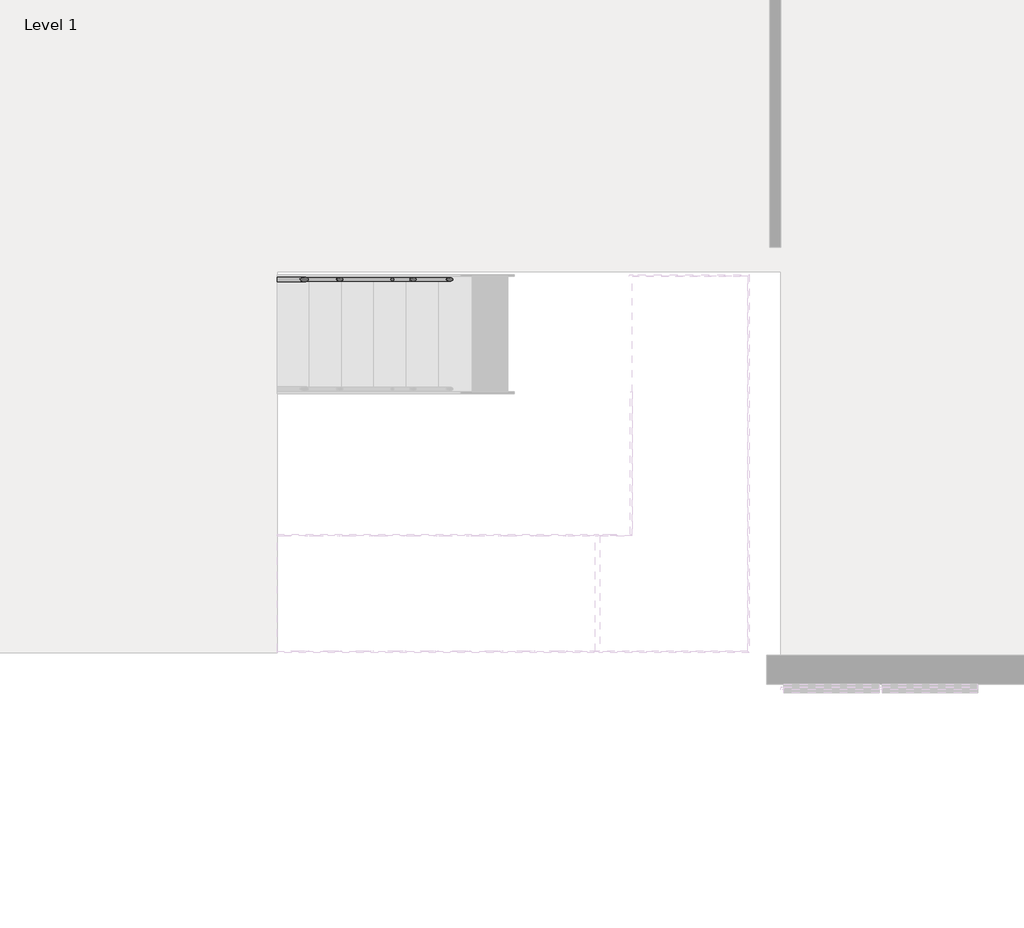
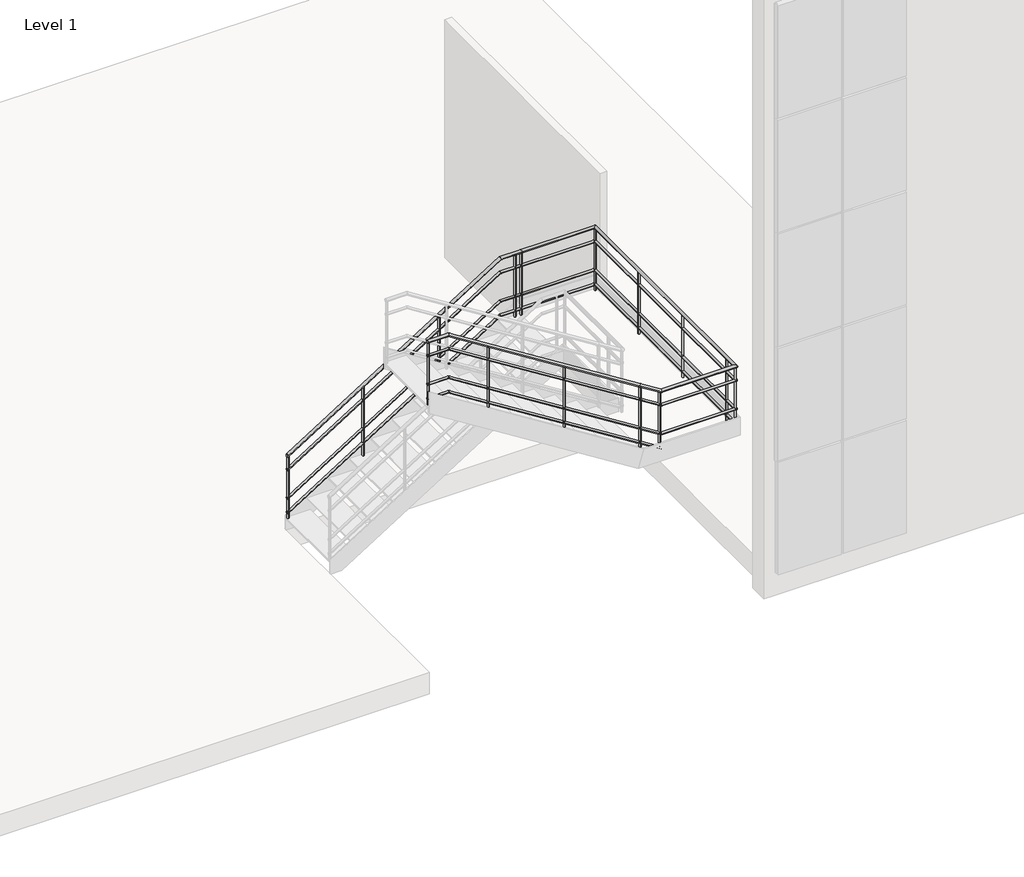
# One storey, part 9 of 10: 1 railing.
"""IFC4 building model written with IfcOpenShell, lengths in millimetres."""

from ifc_helpers import new_model, si_unit, point, frame, frame_2d, origin, place, context, project, spatial, circle_curve, ellipse_curve, trimmed, segment, composite_curve, outline, extrude, element, save
from ifc_brep_helpers import plane_surface, cylinder_surface, advanced_brep

model = new_model("IFC4")

# Units and contexts
model_context = context("Model", 3, world=origin())
ifc_project = project(units=[si_unit("LENGTHUNIT", "METRE", prefix="MILLI")], contexts=[model_context])

# Site, building, storey
site = spatial("IfcSite", under=ifc_project)
building = spatial("IfcBuilding", under=site)
storey = spatial("IfcBuildingStorey", under=building, Name="Level 1", Elevation=3750.0)

# Railing
placement = place(None, origin())
element("IfcRailing", 1, ObjectType="900mm_Pipe 2", at=placement, inside=storey, context=model_context, shape_type="SolidModel", body=[
    advanced_brep(
    [(35285.7942367, -43.5974508, 4802.5603454), (35285.7942367, -3.5974508, 4802.5603454), (38091.5632013, -43.5974508, 6568.0952381), (38091.5632013, -3.5974508, 6568.0952381), (38365.7942367, -43.5974508, 6568.0952381), (38365.7942367, -3.5974508, 6568.0952381), (39320.3942367, -43.5974508, 6568.0952381), (39360.3942367, -3.5974508, 6568.0952381), (39320.3942367, -3201.9476462, 6568.0952381), (39360.3942367, -3241.9476462, 6568.0952381), (38360.0252721, -3201.9476462, 6568.0952381), (38360.0252721, -3241.9476462, 6568.0952381), (38075.1425529, -3201.9476462, 6747.3581736), (38075.1425529, -3241.9476462, 6747.3581736), (35560.0252721, -3201.9476462, 8330.0), (35560.0252721, -3241.9476462, 8330.0), (35285.7942367, -3201.9476462, 8330.0), (35285.7942367, -3241.9476462, 8330.0)],
    [
        (0, 1, ellipse_curve(frame((35285.7942367, -23.5974508, 4802.5603454), z_axis=(-1.0, 0.0, 0.0), x_axis=(0.0, 0.0, -1.0)), 23.6301308, 20.0)),
        (1, 0, ellipse_curve(frame((35285.7942367, -23.5974508, 4802.5603454), z_axis=(-1.0, 0.0, 0.0), x_axis=(0.0, 0.0, -1.0)), 23.6301308, 20.0)),
        (0, 2),
        (2, 3, ellipse_curve(frame((38091.5632013, -23.5974508, 6568.0952381), z_axis=(-0.9608269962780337, 0.0, -0.2771488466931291), x_axis=(0.2771488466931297, 0.0, -0.9608269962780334)), 20.8154018, 20.0)),
        (3, 1),
        (3, 2, ellipse_curve(frame((38091.5632013, -23.5974508, 6568.0952381), z_axis=(-0.9608269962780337, 0.0, -0.2771488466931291), x_axis=(0.2771488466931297, 0.0, -0.9608269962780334)), 20.8154018, 20.0)),
        (2, 4),
        (4, 5, circle_curve(frame((38365.7942367, -23.5974508, 6568.0952381), z_axis=(-1.0, 0.0, 0.0), x_axis=(0.0, 1.0, 0.0)), 20.0)),
        (5, 3),
        (5, 4, circle_curve(frame((38365.7942367, -23.5974508, 6568.0952381), z_axis=(-1.0, 0.0, 0.0), x_axis=(0.0, 1.0, 0.0)), 20.0)),
        (4, 6),
        (6, 7, ellipse_curve(frame((39340.3942367, -23.5974508, 6568.0952381), z_axis=(-0.7071067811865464, 0.7071067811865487, 0.0), x_axis=(-0.7071067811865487, -0.7071067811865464, 0.0)), 28.2842712, 20.0)),
        (7, 5),
        (7, 6, ellipse_curve(frame((39340.3942367, -23.5974508, 6568.0952381), z_axis=(-0.7071067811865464, 0.7071067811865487, 0.0), x_axis=(-0.7071067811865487, -0.7071067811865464, 0.0)), 28.2842712, 20.0)),
        (6, 8),
        (8, 9, ellipse_curve(frame((39340.3942367, -3221.9476462, 6568.0952381), z_axis=(0.7071067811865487, 0.7071067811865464, 0.0), x_axis=(-0.7071067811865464, 0.7071067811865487, 0.0)), 28.2842712, 20.0)),
        (9, 7),
        (9, 8, ellipse_curve(frame((39340.3942367, -3221.9476462, 6568.0952381), z_axis=(0.7071067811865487, 0.7071067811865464, 0.0), x_axis=(-0.7071067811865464, 0.7071067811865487, 0.0)), 28.2842712, 20.0)),
        (8, 10),
        (10, 11, ellipse_curve(frame((38360.0252721, -3221.9476462, 6568.0952381), z_axis=(0.9608269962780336, 0.0, -0.2771488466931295), x_axis=(0.27714884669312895, 0.0, 0.9608269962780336)), 20.8154018, 20.0)),
        (11, 9),
        (11, 10, ellipse_curve(frame((38360.0252721, -3221.9476462, 6568.0952381), z_axis=(0.9608269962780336, 0.0, -0.2771488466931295), x_axis=(0.27714884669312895, 0.0, 0.9608269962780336)), 20.8154018, 20.0)),
        (10, 12),
        (12, 13, circle_curve(frame((38075.1425529, -3221.9476462, 6747.3581736), z_axis=(0.8463770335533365, 0.0, -0.5325841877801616), x_axis=(0.0, -1.0, 0.0)), 20.0)),
        (13, 11),
        (13, 12, circle_curve(frame((38075.1425529, -3221.9476462, 6747.3581736), z_axis=(0.8463770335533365, 0.0, -0.5325841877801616), x_axis=(0.0, -1.0, 0.0)), 20.0)),
        (12, 14),
        (14, 15, ellipse_curve(frame((35560.0252721, -3221.9476462, 8330.0), z_axis=(0.9608269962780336, 0.0, -0.27714884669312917), x_axis=(-0.27714884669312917, 0.0, -0.9608269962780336)), 20.8154018, 20.0)),
        (15, 13),
        (15, 14, ellipse_curve(frame((35560.0252721, -3221.9476462, 8330.0), z_axis=(0.9608269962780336, 0.0, -0.27714884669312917), x_axis=(-0.27714884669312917, 0.0, -0.9608269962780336)), 20.8154018, 20.0)),
        (16, 17, circle_curve(frame((35285.7942367, -3221.9476462, 8330.0), z_axis=(-1.0, 0.0, 0.0), x_axis=(0.0, -1.0, 0.0)), 20.0)),
        (17, 16, circle_curve(frame((35285.7942367, -3221.9476462, 8330.0), z_axis=(-1.0, 0.0, 0.0), x_axis=(0.0, -1.0, 0.0)), 20.0)),
        (14, 16),
        (17, 15),
    ],
    [
        plane_surface(frame((35285.7942367, -23.5974508, 4826.1904762), z_axis=(-1.0, 0.0, 0.0), x_axis=(0.0, 1.0, 0.0))),
        cylinder_surface(frame((35296.4459204, -23.5974508, 4809.2629355), z_axis=(-0.8463770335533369, 0.0, -0.5325841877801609), x_axis=(0.0, 1.0, 0.0)), 20.0),
        cylinder_surface(frame((38085.7942367, -23.5974508, 6568.0952381), z_axis=(-1.0, 0.0, 0.0), x_axis=(0.0, 1.0, 0.0)), 20.0),
        cylinder_surface(frame((38365.7942367, -23.5974508, 6568.0952381), z_axis=(-1.0, 0.0, 0.0), x_axis=(0.0, 1.0, 0.0)), 20.0),
        cylinder_surface(frame((39340.3942367, -23.5974508, 6568.0952381), z_axis=(0.0, 1.0, 0.0), x_axis=(1.0, 0.0, 0.0)), 20.0),
        cylinder_surface(frame((39340.3942367, -3221.9476462, 6568.0952381), z_axis=(1.0, 0.0, 0.0), x_axis=(0.0, -1.0, 0.0)), 20.0),
        cylinder_surface(frame((38355.1425529, -3221.9476462, 6571.1676974), z_axis=(0.8463770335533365, 0.0, -0.5325841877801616), x_axis=(0.0, -1.0, 0.0)), 20.0),
        cylinder_surface(frame((38075.1425529, -3221.9476462, 6747.3581736), z_axis=(0.8463770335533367, 0.0, -0.5325841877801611), x_axis=(0.0, -1.0, 0.0)), 20.0),
        plane_surface(frame((35285.7942367, -3221.9476462, 8350.0), z_axis=(-1.0, 0.0, 0.0), x_axis=(0.0, -1.0, 0.0))),
        cylinder_surface(frame((35565.7942367, -3221.9476462, 8330.0), z_axis=(1.0, 0.0, 0.0), x_axis=(0.0, -1.0, 0.0)), 20.0),
    ],
    [
        (0, [[1, 2]]),
        (1, [[-1, 3, 4, 5]]),
        (1, [[-2, -5, 6, -3]]),
        (2, [[-4, 7, 8, 9]]),
        (2, [[-6, -9, 10, -7]]),
        (3, [[-8, 11, 12, 13]]),
        (3, [[-10, -13, 14, -11]]),
        (4, [[-12, 15, 16, 17]]),
        (4, [[-14, -17, 18, -15]]),
        (5, [[-16, 19, 20, 21]]),
        (5, [[-18, -21, 22, -19]]),
        (6, [[-20, 23, 24, 25]]),
        (6, [[-22, -25, 26, -23]]),
        (7, [[-24, 27, 28, 29]]),
        (7, [[-26, -29, 30, -27]]),
        (8, [[31, 32]]),
        (9, [[-28, 33, -32, 34]]),
        (9, [[-30, -34, -31, -33]]),
    ],
),
    advanced_brep(
    [(35285.7942367, -38.5974508, 4608.4678781), (35285.7942367, -8.5974508, 4608.4678781), (38090.1209601, -38.5974508, 6373.0952381), (38090.1209601, -8.5974508, 6373.0952381), (38365.7942367, -38.5974508, 6373.0952381), (38365.7942367, -8.5974508, 6373.0952381)],
    [
        (0, 1, ellipse_curve(frame((35285.7942367, -23.5974508, 4608.4678781), z_axis=(-1.0, 0.0, 0.0), x_axis=(0.0, 0.0, -1.0)), 17.7225981, 15.0)),
        (1, 0, ellipse_curve(frame((35285.7942367, -23.5974508, 4608.4678781), z_axis=(-1.0, 0.0, 0.0), x_axis=(0.0, 0.0, -1.0)), 17.7225981, 15.0)),
        (0, 2),
        (2, 3, ellipse_curve(frame((38090.1209601, -23.5974508, 6373.0952381), z_axis=(-0.9608269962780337, 0.0, -0.2771488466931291), x_axis=(0.2771488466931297, 0.0, -0.9608269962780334)), 15.6115514, 15.0)),
        (3, 1),
        (3, 2, ellipse_curve(frame((38090.1209601, -23.5974508, 6373.0952381), z_axis=(-0.9608269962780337, 0.0, -0.2771488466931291), x_axis=(0.2771488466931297, 0.0, -0.9608269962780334)), 15.6115514, 15.0)),
        (4, 5, circle_curve(frame((38365.7942367, -23.5974508, 6373.0952381), z_axis=(1.0, 0.0, 0.0), x_axis=(0.0, 1.0, 0.0)), 15.0)),
        (5, 4, circle_curve(frame((38365.7942367, -23.5974508, 6373.0952381), z_axis=(1.0, 0.0, 0.0), x_axis=(0.0, 1.0, 0.0)), 15.0)),
        (2, 4),
        (5, 3),
    ],
    [
        plane_surface(frame((35285.7942367, -23.5974508, 4626.1904762), z_axis=(-1.0, 0.0, 0.0), x_axis=(0.0, 1.0, 0.0))),
        cylinder_surface(frame((35293.7829995, -23.5974508, 4613.4948207), z_axis=(-0.8463770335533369, 0.0, -0.5325841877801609), x_axis=(0.0, 1.0, 0.0)), 15.0),
        plane_surface(frame((38365.7942367, -23.5974508, 6388.0952381), z_axis=(1.0, 0.0, 0.0), x_axis=(0.0, 1.0, 0.0))),
        cylinder_surface(frame((38085.7942367, -23.5974508, 6373.0952381), z_axis=(-1.0, 0.0, 0.0), x_axis=(0.0, 1.0, 0.0)), 15.0),
    ],
    [
        (0, [[1, 2]]),
        (1, [[-1, 3, 4, 5]]),
        (1, [[-2, -5, 6, -3]]),
        (2, [[7, 8]]),
        (3, [[-4, 9, -8, 10]]),
        (3, [[-6, -10, -7, -9]]),
    ],
),
    advanced_brep(
    [(38365.7942367, -38.5974508, 6373.0952381), (38365.7942367, -8.5974508, 6373.0952381), (39325.3942367, -38.5974508, 6373.0952381), (39325.3942367, -8.5974508, 6373.0952381)],
    [
        (0, 1, circle_curve(frame((38365.7942367, -23.5974508, 6373.0952381), z_axis=(-1.0, 0.0, 0.0), x_axis=(0.0, 1.0, 0.0)), 15.0)),
        (1, 0, circle_curve(frame((38365.7942367, -23.5974508, 6373.0952381), z_axis=(-1.0, 0.0, 0.0), x_axis=(0.0, 1.0, 0.0)), 15.0)),
        (2, 3, circle_curve(frame((39325.3942367, -23.5974508, 6373.0952381), z_axis=(1.0, 0.0, 0.0), x_axis=(0.0, 1.0, 0.0)), 15.0)),
        (3, 2, circle_curve(frame((39325.3942367, -23.5974508, 6373.0952381), z_axis=(1.0, 0.0, 0.0), x_axis=(0.0, 1.0, 0.0)), 15.0)),
        (0, 2),
        (3, 1),
    ],
    [
        plane_surface(frame((38365.7942367, -23.5974508, 6388.0952381), z_axis=(-1.0, 0.0, 0.0), x_axis=(0.0, 1.0, 0.0))),
        plane_surface(frame((39325.3942367, -23.5974508, 6388.0952381), z_axis=(1.0, 0.0, 0.0), x_axis=(0.0, 1.0, 0.0))),
        cylinder_surface(frame((38365.7942367, -23.5974508, 6373.0952381), z_axis=(-1.0, 0.0, 0.0), x_axis=(0.0, 1.0, 0.0)), 15.0),
    ],
    [
        (0, [[1, 2]]),
        (1, [[3, 4]]),
        (2, [[-1, 5, -4, 6]]),
        (2, [[-2, -6, -3, -5]]),
    ],
),
    advanced_brep(
    [(39325.3942367, -8.5974508, 6373.0952381), (39355.3942367, -8.5974508, 6373.0952381), (39325.3942367, -3206.9476462, 6373.0952381), (39355.3942367, -3206.9476462, 6373.0952381)],
    [
        (0, 1, circle_curve(frame((39340.3942367, -8.5974508, 6373.0952381), z_axis=(0.0, 1.0, 0.0), x_axis=(1.0, 0.0, 0.0)), 15.0)),
        (1, 0, circle_curve(frame((39340.3942367, -8.5974508, 6373.0952381), z_axis=(0.0, 1.0, 0.0), x_axis=(1.0, 0.0, 0.0)), 15.0)),
        (2, 3, circle_curve(frame((39340.3942367, -3206.9476462, 6373.0952381), z_axis=(0.0, -1.0, 0.0), x_axis=(1.0, 0.0, 0.0)), 15.0)),
        (3, 2, circle_curve(frame((39340.3942367, -3206.9476462, 6373.0952381), z_axis=(0.0, -1.0, 0.0), x_axis=(1.0, 0.0, 0.0)), 15.0)),
        (0, 2),
        (3, 1),
    ],
    [
        plane_surface(frame((39340.3942367, -8.5974508, 6388.0952381), z_axis=(0.0, 1.0, 0.0), x_axis=(0.0, 0.0, -1.0))),
        plane_surface(frame((39340.3942367, -3206.9476462, 6388.0952381), z_axis=(0.0, -1.0, 0.0), x_axis=(0.0, 0.0, -1.0))),
        cylinder_surface(frame((39340.3942367, -8.5974508, 6373.0952381), z_axis=(0.0, 1.0, 0.0), x_axis=(1.0, 0.0, 0.0)), 15.0),
    ],
    [
        (0, [[1, 2]]),
        (1, [[3, 4]]),
        (2, [[-1, 5, -4, 6]]),
        (2, [[-2, -6, -3, -5]]),
    ],
),
    advanced_brep(
    [(39355.3942367, -3206.9476462, 6373.0952381), (39355.3942367, -3236.9476462, 6373.0952381), (38361.4675132, -3206.9476462, 6373.0952381), (38361.4675132, -3236.9476462, 6373.0952381), (38085.7942367, -3206.9476462, 6546.5631162), (38085.7942367, -3236.9476462, 6546.5631162)],
    [
        (0, 1, circle_curve(frame((39355.3942367, -3221.9476462, 6373.0952381), z_axis=(1.0, 0.0, 0.0), x_axis=(0.0, -1.0, 0.0)), 15.0)),
        (1, 0, circle_curve(frame((39355.3942367, -3221.9476462, 6373.0952381), z_axis=(1.0, 0.0, 0.0), x_axis=(0.0, -1.0, 0.0)), 15.0)),
        (0, 2),
        (2, 3, ellipse_curve(frame((38361.4675132, -3221.9476462, 6373.0952381), z_axis=(0.9608269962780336, 0.0, -0.2771488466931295), x_axis=(0.27714884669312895, 0.0, 0.9608269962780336)), 15.6115514, 15.0)),
        (3, 1),
        (3, 2, ellipse_curve(frame((38361.4675132, -3221.9476462, 6373.0952381), z_axis=(0.9608269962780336, 0.0, -0.2771488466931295), x_axis=(0.27714884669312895, 0.0, 0.9608269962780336)), 15.6115514, 15.0)),
        (4, 5, ellipse_curve(frame((38085.7942367, -3221.9476462, 6546.5631162), z_axis=(-1.0, 0.0, 0.0), x_axis=(0.0, 0.0, -1.0)), 17.7225981, 15.0)),
        (5, 4, ellipse_curve(frame((38085.7942367, -3221.9476462, 6546.5631162), z_axis=(-1.0, 0.0, 0.0), x_axis=(0.0, 0.0, -1.0)), 17.7225981, 15.0)),
        (2, 4),
        (5, 3),
    ],
    [
        plane_surface(frame((39355.3942367, -3221.9476462, 6388.0952381), z_axis=(1.0, 0.0, 0.0), x_axis=(0.0, -1.0, 0.0))),
        cylinder_surface(frame((39355.3942367, -3221.9476462, 6373.0952381), z_axis=(1.0, 0.0, 0.0), x_axis=(0.0, -1.0, 0.0)), 15.0),
        plane_surface(frame((38085.7942367, -3221.9476462, 6564.2857143), z_axis=(-1.0, 0.0, 0.0), x_axis=(0.0, -1.0, 0.0))),
        cylinder_surface(frame((38357.8054739, -3221.9476462, 6375.3995826), z_axis=(0.8463770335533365, 0.0, -0.5325841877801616), x_axis=(0.0, -1.0, 0.0)), 15.0),
    ],
    [
        (0, [[1, 2]]),
        (1, [[-1, 3, 4, 5]]),
        (1, [[-2, -5, 6, -3]]),
        (2, [[7, 8]]),
        (3, [[-4, 9, -8, 10]]),
        (3, [[-6, -10, -7, -9]]),
    ],
),
    advanced_brep(
    [(38085.7942367, -3206.9476462, 6546.5631162), (38085.7942367, -3236.9476462, 6546.5631162), (35561.4675132, -3206.9476462, 8135.0), (35561.4675132, -3236.9476462, 8135.0), (35285.7942367, -3206.9476462, 8135.0), (35285.7942367, -3236.9476462, 8135.0)],
    [
        (0, 1, ellipse_curve(frame((38085.7942367, -3221.9476462, 6546.5631162), z_axis=(1.0, 0.0, 0.0), x_axis=(0.0, 0.0, -1.0)), 17.7225981, 15.0)),
        (1, 0, ellipse_curve(frame((38085.7942367, -3221.9476462, 6546.5631162), z_axis=(1.0, 0.0, 0.0), x_axis=(0.0, 0.0, -1.0)), 17.7225981, 15.0)),
        (0, 2),
        (2, 3, ellipse_curve(frame((35561.4675132, -3221.9476462, 8135.0), z_axis=(0.9608269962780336, 0.0, -0.27714884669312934), x_axis=(-0.2771488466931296, 0.0, -0.9608269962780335)), 15.6115514, 15.0)),
        (3, 1),
        (3, 2, ellipse_curve(frame((35561.4675132, -3221.9476462, 8135.0), z_axis=(0.9608269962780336, 0.0, -0.27714884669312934), x_axis=(-0.2771488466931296, 0.0, -0.9608269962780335)), 15.6115514, 15.0)),
        (4, 5, circle_curve(frame((35285.7942367, -3221.9476462, 8135.0), z_axis=(-1.0, 0.0, 0.0), x_axis=(0.0, -1.0, 0.0)), 15.0)),
        (5, 4, circle_curve(frame((35285.7942367, -3221.9476462, 8135.0), z_axis=(-1.0, 0.0, 0.0), x_axis=(0.0, -1.0, 0.0)), 15.0)),
        (2, 4),
        (5, 3),
    ],
    [
        plane_surface(frame((38085.7942367, -3221.9476462, 6564.2857143), z_axis=(1.0, 0.0, 0.0), x_axis=(0.0, -1.0, 0.0))),
        cylinder_surface(frame((38077.8054739, -3221.9476462, 6551.5900588), z_axis=(0.8463770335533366, 0.0, -0.5325841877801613), x_axis=(0.0, -1.0, 0.0)), 15.0),
        plane_surface(frame((35285.7942367, -3221.9476462, 8150.0), z_axis=(-1.0, 0.0, 0.0), x_axis=(0.0, -1.0, 0.0))),
        cylinder_surface(frame((35565.7942367, -3221.9476462, 8135.0), z_axis=(1.0, 0.0, 0.0), x_axis=(0.0, -1.0, 0.0)), 15.0),
    ],
    [
        (0, [[1, 2]]),
        (1, [[-1, 3, 4, 5]]),
        (1, [[-2, -5, 6, -3]]),
        (2, [[7, 8]]),
        (3, [[-4, 9, -8, 10]]),
        (3, [[-6, -10, -7, -9]]),
    ],
),
    advanced_brep(
    [(35285.7942367, -38.5974508, 4208.4678781), (35285.7942367, -8.5974508, 4208.4678781), (38090.1209601, -38.5974508, 5973.0952381), (38090.1209601, -8.5974508, 5973.0952381), (38365.7942367, -38.5974508, 5973.0952381), (38365.7942367, -8.5974508, 5973.0952381)],
    [
        (0, 1, ellipse_curve(frame((35285.7942367, -23.5974508, 4208.4678781), z_axis=(-1.0, 0.0, 0.0), x_axis=(0.0, 0.0, -1.0)), 17.7225981, 15.0)),
        (1, 0, ellipse_curve(frame((35285.7942367, -23.5974508, 4208.4678781), z_axis=(-1.0, 0.0, 0.0), x_axis=(0.0, 0.0, -1.0)), 17.7225981, 15.0)),
        (0, 2),
        (2, 3, ellipse_curve(frame((38090.1209601, -23.5974508, 5973.0952381), z_axis=(-0.9608269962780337, 0.0, -0.2771488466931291), x_axis=(0.2771488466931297, 0.0, -0.9608269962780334)), 15.6115514, 15.0)),
        (3, 1),
        (3, 2, ellipse_curve(frame((38090.1209601, -23.5974508, 5973.0952381), z_axis=(-0.9608269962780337, 0.0, -0.2771488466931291), x_axis=(0.2771488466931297, 0.0, -0.9608269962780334)), 15.6115514, 15.0)),
        (4, 5, circle_curve(frame((38365.7942367, -23.5974508, 5973.0952381), z_axis=(1.0, 0.0, 0.0), x_axis=(0.0, 1.0, 0.0)), 15.0)),
        (5, 4, circle_curve(frame((38365.7942367, -23.5974508, 5973.0952381), z_axis=(1.0, 0.0, 0.0), x_axis=(0.0, 1.0, 0.0)), 15.0)),
        (2, 4),
        (5, 3),
    ],
    [
        plane_surface(frame((35285.7942367, -23.5974508, 4226.1904762), z_axis=(-1.0, 0.0, 0.0), x_axis=(0.0, 1.0, 0.0))),
        cylinder_surface(frame((35293.7829995, -23.5974508, 4213.4948207), z_axis=(-0.8463770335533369, 0.0, -0.5325841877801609), x_axis=(0.0, 1.0, 0.0)), 15.0),
        plane_surface(frame((38365.7942367, -23.5974508, 5988.0952381), z_axis=(1.0, 0.0, 0.0), x_axis=(0.0, 1.0, 0.0))),
        cylinder_surface(frame((38085.7942367, -23.5974508, 5973.0952381), z_axis=(-1.0, 0.0, 0.0), x_axis=(0.0, 1.0, 0.0)), 15.0),
    ],
    [
        (0, [[1, 2]]),
        (1, [[-1, 3, 4, 5]]),
        (1, [[-2, -5, 6, -3]]),
        (2, [[7, 8]]),
        (3, [[-4, 9, -8, 10]]),
        (3, [[-6, -10, -7, -9]]),
    ],
),
    advanced_brep(
    [(38365.7942367, -38.5974508, 5973.0952381), (38365.7942367, -8.5974508, 5973.0952381), (39325.3942367, -38.5974508, 5973.0952381), (39325.3942367, -8.5974508, 5973.0952381)],
    [
        (0, 1, circle_curve(frame((38365.7942367, -23.5974508, 5973.0952381), z_axis=(-1.0, 0.0, 0.0), x_axis=(0.0, 1.0, 0.0)), 15.0)),
        (1, 0, circle_curve(frame((38365.7942367, -23.5974508, 5973.0952381), z_axis=(-1.0, 0.0, 0.0), x_axis=(0.0, 1.0, 0.0)), 15.0)),
        (2, 3, circle_curve(frame((39325.3942367, -23.5974508, 5973.0952381), z_axis=(1.0, 0.0, 0.0), x_axis=(0.0, 1.0, 0.0)), 15.0)),
        (3, 2, circle_curve(frame((39325.3942367, -23.5974508, 5973.0952381), z_axis=(1.0, 0.0, 0.0), x_axis=(0.0, 1.0, 0.0)), 15.0)),
        (0, 2),
        (3, 1),
    ],
    [
        plane_surface(frame((38365.7942367, -23.5974508, 5988.0952381), z_axis=(-1.0, 0.0, 0.0), x_axis=(0.0, 1.0, 0.0))),
        plane_surface(frame((39325.3942367, -23.5974508, 5988.0952381), z_axis=(1.0, 0.0, 0.0), x_axis=(0.0, 1.0, 0.0))),
        cylinder_surface(frame((38365.7942367, -23.5974508, 5973.0952381), z_axis=(-1.0, 0.0, 0.0), x_axis=(0.0, 1.0, 0.0)), 15.0),
    ],
    [
        (0, [[1, 2]]),
        (1, [[3, 4]]),
        (2, [[-1, 5, -4, 6]]),
        (2, [[-2, -6, -3, -5]]),
    ],
),
    advanced_brep(
    [(39325.3942367, -8.5974508, 5973.0952381), (39355.3942367, -8.5974508, 5973.0952381), (39325.3942367, -3206.9476462, 5973.0952381), (39355.3942367, -3206.9476462, 5973.0952381)],
    [
        (0, 1, circle_curve(frame((39340.3942367, -8.5974508, 5973.0952381), z_axis=(0.0, 1.0, 0.0), x_axis=(1.0, 0.0, 0.0)), 15.0)),
        (1, 0, circle_curve(frame((39340.3942367, -8.5974508, 5973.0952381), z_axis=(0.0, 1.0, 0.0), x_axis=(1.0, 0.0, 0.0)), 15.0)),
        (2, 3, circle_curve(frame((39340.3942367, -3206.9476462, 5973.0952381), z_axis=(0.0, -1.0, 0.0), x_axis=(1.0, 0.0, 0.0)), 15.0)),
        (3, 2, circle_curve(frame((39340.3942367, -3206.9476462, 5973.0952381), z_axis=(0.0, -1.0, 0.0), x_axis=(1.0, 0.0, 0.0)), 15.0)),
        (0, 2),
        (3, 1),
    ],
    [
        plane_surface(frame((39340.3942367, -8.5974508, 5988.0952381), z_axis=(0.0, 1.0, 0.0), x_axis=(0.0, 0.0, -1.0))),
        plane_surface(frame((39340.3942367, -3206.9476462, 5988.0952381), z_axis=(0.0, -1.0, 0.0), x_axis=(0.0, 0.0, -1.0))),
        cylinder_surface(frame((39340.3942367, -8.5974508, 5973.0952381), z_axis=(0.0, 1.0, 0.0), x_axis=(1.0, 0.0, 0.0)), 15.0),
    ],
    [
        (0, [[1, 2]]),
        (1, [[3, 4]]),
        (2, [[-1, 5, -4, 6]]),
        (2, [[-2, -6, -3, -5]]),
    ],
),
    advanced_brep(
    [(39355.3942367, -3206.9476462, 5973.0952381), (39355.3942367, -3236.9476462, 5973.0952381), (38361.4675132, -3206.9476462, 5973.0952381), (38361.4675132, -3236.9476462, 5973.0952381), (38085.7942367, -3206.9476462, 6146.5631162), (38085.7942367, -3236.9476462, 6146.5631162)],
    [
        (0, 1, circle_curve(frame((39355.3942367, -3221.9476462, 5973.0952381), z_axis=(1.0, 0.0, 0.0), x_axis=(0.0, -1.0, 0.0)), 15.0)),
        (1, 0, circle_curve(frame((39355.3942367, -3221.9476462, 5973.0952381), z_axis=(1.0, 0.0, 0.0), x_axis=(0.0, -1.0, 0.0)), 15.0)),
        (0, 2),
        (2, 3, ellipse_curve(frame((38361.4675132, -3221.9476462, 5973.0952381), z_axis=(0.9608269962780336, 0.0, -0.2771488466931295), x_axis=(0.27714884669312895, 0.0, 0.9608269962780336)), 15.6115514, 15.0)),
        (3, 1),
        (3, 2, ellipse_curve(frame((38361.4675132, -3221.9476462, 5973.0952381), z_axis=(0.9608269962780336, 0.0, -0.2771488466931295), x_axis=(0.27714884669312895, 0.0, 0.9608269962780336)), 15.6115514, 15.0)),
        (4, 5, ellipse_curve(frame((38085.7942367, -3221.9476462, 6146.5631162), z_axis=(-1.0, 0.0, 0.0), x_axis=(0.0, 0.0, -1.0)), 17.7225981, 15.0)),
        (5, 4, ellipse_curve(frame((38085.7942367, -3221.9476462, 6146.5631162), z_axis=(-1.0, 0.0, 0.0), x_axis=(0.0, 0.0, -1.0)), 17.7225981, 15.0)),
        (2, 4),
        (5, 3),
    ],
    [
        plane_surface(frame((39355.3942367, -3221.9476462, 5988.0952381), z_axis=(1.0, 0.0, 0.0), x_axis=(0.0, -1.0, 0.0))),
        cylinder_surface(frame((39355.3942367, -3221.9476462, 5973.0952381), z_axis=(1.0, 0.0, 0.0), x_axis=(0.0, -1.0, 0.0)), 15.0),
        plane_surface(frame((38085.7942367, -3221.9476462, 6164.2857143), z_axis=(-1.0, 0.0, 0.0), x_axis=(0.0, -1.0, 0.0))),
        cylinder_surface(frame((38357.8054739, -3221.9476462, 5975.3995826), z_axis=(0.8463770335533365, 0.0, -0.5325841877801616), x_axis=(0.0, -1.0, 0.0)), 15.0),
    ],
    [
        (0, [[1, 2]]),
        (1, [[-1, 3, 4, 5]]),
        (1, [[-2, -5, 6, -3]]),
        (2, [[7, 8]]),
        (3, [[-4, 9, -8, 10]]),
        (3, [[-6, -10, -7, -9]]),
    ],
),
    advanced_brep(
    [(38085.7942367, -3206.9476462, 6146.5631162), (38085.7942367, -3236.9476462, 6146.5631162), (35561.4675132, -3206.9476462, 7735.0), (35561.4675132, -3236.9476462, 7735.0), (35285.7942367, -3206.9476462, 7735.0), (35285.7942367, -3236.9476462, 7735.0)],
    [
        (0, 1, ellipse_curve(frame((38085.7942367, -3221.9476462, 6146.5631162), z_axis=(1.0, 0.0, 0.0), x_axis=(0.0, 0.0, -1.0)), 17.7225981, 15.0)),
        (1, 0, ellipse_curve(frame((38085.7942367, -3221.9476462, 6146.5631162), z_axis=(1.0, 0.0, 0.0), x_axis=(0.0, 0.0, -1.0)), 17.7225981, 15.0)),
        (0, 2),
        (2, 3, ellipse_curve(frame((35561.4675132, -3221.9476462, 7735.0), z_axis=(0.9608269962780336, 0.0, -0.27714884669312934), x_axis=(-0.2771488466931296, 0.0, -0.9608269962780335)), 15.6115514, 15.0)),
        (3, 1),
        (3, 2, ellipse_curve(frame((35561.4675132, -3221.9476462, 7735.0), z_axis=(0.9608269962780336, 0.0, -0.27714884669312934), x_axis=(-0.2771488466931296, 0.0, -0.9608269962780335)), 15.6115514, 15.0)),
        (4, 5, circle_curve(frame((35285.7942367, -3221.9476462, 7735.0), z_axis=(-1.0, 0.0, 0.0), x_axis=(0.0, -1.0, 0.0)), 15.0)),
        (5, 4, circle_curve(frame((35285.7942367, -3221.9476462, 7735.0), z_axis=(-1.0, 0.0, 0.0), x_axis=(0.0, -1.0, 0.0)), 15.0)),
        (2, 4),
        (5, 3),
    ],
    [
        plane_surface(frame((38085.7942367, -3221.9476462, 6164.2857143), z_axis=(1.0, 0.0, 0.0), x_axis=(0.0, -1.0, 0.0))),
        cylinder_surface(frame((38077.8054739, -3221.9476462, 6151.5900588), z_axis=(0.8463770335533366, 0.0, -0.5325841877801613), x_axis=(0.0, -1.0, 0.0)), 15.0),
        plane_surface(frame((35285.7942367, -3221.9476462, 7750.0), z_axis=(-1.0, 0.0, 0.0), x_axis=(0.0, -1.0, 0.0))),
        cylinder_surface(frame((35565.7942367, -3221.9476462, 7735.0), z_axis=(1.0, 0.0, 0.0), x_axis=(0.0, -1.0, 0.0)), 15.0),
    ],
    [
        (0, [[1, 2]]),
        (1, [[-1, 3, 4, 5]]),
        (1, [[-2, -5, 6, -3]]),
        (2, [[7, 8]]),
        (3, [[-4, 9, -8, 10]]),
        (3, [[-6, -10, -7, -9]]),
    ],
),
    advanced_brep(
    [(35285.7942367, -38.5974508, 4008.4678781), (35285.7942367, -8.5974508, 4008.4678781), (38090.1209601, -38.5974508, 5773.0952381), (38090.1209601, -8.5974508, 5773.0952381), (38365.7942367, -38.5974508, 5773.0952381), (38365.7942367, -8.5974508, 5773.0952381)],
    [
        (0, 1, ellipse_curve(frame((35285.7942367, -23.5974508, 4008.4678781), z_axis=(-1.0, 0.0, 0.0), x_axis=(0.0, 0.0, -1.0)), 17.7225981, 15.0)),
        (1, 0, ellipse_curve(frame((35285.7942367, -23.5974508, 4008.4678781), z_axis=(-1.0, 0.0, 0.0), x_axis=(0.0, 0.0, -1.0)), 17.7225981, 15.0)),
        (0, 2),
        (2, 3, ellipse_curve(frame((38090.1209601, -23.5974508, 5773.0952381), z_axis=(-0.9608269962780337, 0.0, -0.2771488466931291), x_axis=(0.2771488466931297, 0.0, -0.9608269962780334)), 15.6115514, 15.0)),
        (3, 1),
        (3, 2, ellipse_curve(frame((38090.1209601, -23.5974508, 5773.0952381), z_axis=(-0.9608269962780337, 0.0, -0.2771488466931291), x_axis=(0.2771488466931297, 0.0, -0.9608269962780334)), 15.6115514, 15.0)),
        (4, 5, circle_curve(frame((38365.7942367, -23.5974508, 5773.0952381), z_axis=(1.0, 0.0, 0.0), x_axis=(0.0, 1.0, 0.0)), 15.0)),
        (5, 4, circle_curve(frame((38365.7942367, -23.5974508, 5773.0952381), z_axis=(1.0, 0.0, 0.0), x_axis=(0.0, 1.0, 0.0)), 15.0)),
        (2, 4),
        (5, 3),
    ],
    [
        plane_surface(frame((35285.7942367, -23.5974508, 4026.1904762), z_axis=(-1.0, 0.0, 0.0), x_axis=(0.0, 1.0, 0.0))),
        cylinder_surface(frame((35293.7829995, -23.5974508, 4013.4948207), z_axis=(-0.8463770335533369, 0.0, -0.5325841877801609), x_axis=(0.0, 1.0, 0.0)), 15.0),
        plane_surface(frame((38365.7942367, -23.5974508, 5788.0952381), z_axis=(1.0, 0.0, 0.0), x_axis=(0.0, 1.0, 0.0))),
        cylinder_surface(frame((38085.7942367, -23.5974508, 5773.0952381), z_axis=(-1.0, 0.0, 0.0), x_axis=(0.0, 1.0, 0.0)), 15.0),
    ],
    [
        (0, [[1, 2]]),
        (1, [[-1, 3, 4, 5]]),
        (1, [[-2, -5, 6, -3]]),
        (2, [[7, 8]]),
        (3, [[-4, 9, -8, 10]]),
        (3, [[-6, -10, -7, -9]]),
    ],
),
    advanced_brep(
    [(38365.7942367, -38.5974508, 5773.0952381), (38365.7942367, -8.5974508, 5773.0952381), (39325.3942367, -38.5974508, 5773.0952381), (39325.3942367, -8.5974508, 5773.0952381)],
    [
        (0, 1, circle_curve(frame((38365.7942367, -23.5974508, 5773.0952381), z_axis=(-1.0, 0.0, 0.0), x_axis=(0.0, 1.0, 0.0)), 15.0)),
        (1, 0, circle_curve(frame((38365.7942367, -23.5974508, 5773.0952381), z_axis=(-1.0, 0.0, 0.0), x_axis=(0.0, 1.0, 0.0)), 15.0)),
        (2, 3, circle_curve(frame((39325.3942367, -23.5974508, 5773.0952381), z_axis=(1.0, 0.0, 0.0), x_axis=(0.0, 1.0, 0.0)), 15.0)),
        (3, 2, circle_curve(frame((39325.3942367, -23.5974508, 5773.0952381), z_axis=(1.0, 0.0, 0.0), x_axis=(0.0, 1.0, 0.0)), 15.0)),
        (0, 2),
        (3, 1),
    ],
    [
        plane_surface(frame((38365.7942367, -23.5974508, 5788.0952381), z_axis=(-1.0, 0.0, 0.0), x_axis=(0.0, 1.0, 0.0))),
        plane_surface(frame((39325.3942367, -23.5974508, 5788.0952381), z_axis=(1.0, 0.0, 0.0), x_axis=(0.0, 1.0, 0.0))),
        cylinder_surface(frame((38365.7942367, -23.5974508, 5773.0952381), z_axis=(-1.0, 0.0, 0.0), x_axis=(0.0, 1.0, 0.0)), 15.0),
    ],
    [
        (0, [[1, 2]]),
        (1, [[3, 4]]),
        (2, [[-1, 5, -4, 6]]),
        (2, [[-2, -6, -3, -5]]),
    ],
),
    advanced_brep(
    [(39325.3942367, -8.5974508, 5773.0952381), (39355.3942367, -8.5974508, 5773.0952381), (39325.3942367, -3206.9476462, 5773.0952381), (39355.3942367, -3206.9476462, 5773.0952381)],
    [
        (0, 1, circle_curve(frame((39340.3942367, -8.5974508, 5773.0952381), z_axis=(0.0, 1.0, 0.0), x_axis=(1.0, 0.0, 0.0)), 15.0)),
        (1, 0, circle_curve(frame((39340.3942367, -8.5974508, 5773.0952381), z_axis=(0.0, 1.0, 0.0), x_axis=(1.0, 0.0, 0.0)), 15.0)),
        (2, 3, circle_curve(frame((39340.3942367, -3206.9476462, 5773.0952381), z_axis=(0.0, -1.0, 0.0), x_axis=(1.0, 0.0, 0.0)), 15.0)),
        (3, 2, circle_curve(frame((39340.3942367, -3206.9476462, 5773.0952381), z_axis=(0.0, -1.0, 0.0), x_axis=(1.0, 0.0, 0.0)), 15.0)),
        (0, 2),
        (3, 1),
    ],
    [
        plane_surface(frame((39340.3942367, -8.5974508, 5788.0952381), z_axis=(0.0, 1.0, 0.0), x_axis=(0.0, 0.0, -1.0))),
        plane_surface(frame((39340.3942367, -3206.9476462, 5788.0952381), z_axis=(0.0, -1.0, 0.0), x_axis=(0.0, 0.0, -1.0))),
        cylinder_surface(frame((39340.3942367, -8.5974508, 5773.0952381), z_axis=(0.0, 1.0, 0.0), x_axis=(1.0, 0.0, 0.0)), 15.0),
    ],
    [
        (0, [[1, 2]]),
        (1, [[3, 4]]),
        (2, [[-1, 5, -4, 6]]),
        (2, [[-2, -6, -3, -5]]),
    ],
),
    advanced_brep(
    [(39355.3942367, -3206.9476462, 5773.0952381), (39355.3942367, -3236.9476462, 5773.0952381), (38361.4675132, -3206.9476462, 5773.0952381), (38361.4675132, -3236.9476462, 5773.0952381), (38085.7942367, -3206.9476462, 5946.5631162), (38085.7942367, -3236.9476462, 5946.5631162)],
    [
        (0, 1, circle_curve(frame((39355.3942367, -3221.9476462, 5773.0952381), z_axis=(1.0, 0.0, 0.0), x_axis=(0.0, -1.0, 0.0)), 15.0)),
        (1, 0, circle_curve(frame((39355.3942367, -3221.9476462, 5773.0952381), z_axis=(1.0, 0.0, 0.0), x_axis=(0.0, -1.0, 0.0)), 15.0)),
        (0, 2),
        (2, 3, ellipse_curve(frame((38361.4675132, -3221.9476462, 5773.0952381), z_axis=(0.9608269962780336, 0.0, -0.2771488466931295), x_axis=(0.27714884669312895, 0.0, 0.9608269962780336)), 15.6115514, 15.0)),
        (3, 1),
        (3, 2, ellipse_curve(frame((38361.4675132, -3221.9476462, 5773.0952381), z_axis=(0.9608269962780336, 0.0, -0.2771488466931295), x_axis=(0.27714884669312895, 0.0, 0.9608269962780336)), 15.6115514, 15.0)),
        (4, 5, ellipse_curve(frame((38085.7942367, -3221.9476462, 5946.5631162), z_axis=(-1.0, 0.0, 0.0), x_axis=(0.0, 0.0, -1.0)), 17.7225981, 15.0)),
        (5, 4, ellipse_curve(frame((38085.7942367, -3221.9476462, 5946.5631162), z_axis=(-1.0, 0.0, 0.0), x_axis=(0.0, 0.0, -1.0)), 17.7225981, 15.0)),
        (2, 4),
        (5, 3),
    ],
    [
        plane_surface(frame((39355.3942367, -3221.9476462, 5788.0952381), z_axis=(1.0, 0.0, 0.0), x_axis=(0.0, -1.0, 0.0))),
        cylinder_surface(frame((39355.3942367, -3221.9476462, 5773.0952381), z_axis=(1.0, 0.0, 0.0), x_axis=(0.0, -1.0, 0.0)), 15.0),
        plane_surface(frame((38085.7942367, -3221.9476462, 5964.2857143), z_axis=(-1.0, 0.0, 0.0), x_axis=(0.0, -1.0, 0.0))),
        cylinder_surface(frame((38357.8054739, -3221.9476462, 5775.3995826), z_axis=(0.8463770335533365, 0.0, -0.5325841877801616), x_axis=(0.0, -1.0, 0.0)), 15.0),
    ],
    [
        (0, [[1, 2]]),
        (1, [[-1, 3, 4, 5]]),
        (1, [[-2, -5, 6, -3]]),
        (2, [[7, 8]]),
        (3, [[-4, 9, -8, 10]]),
        (3, [[-6, -10, -7, -9]]),
    ],
),
    advanced_brep(
    [(38085.7942367, -3206.9476462, 5946.5631162), (38085.7942367, -3236.9476462, 5946.5631162), (35561.4675132, -3206.9476462, 7535.0), (35561.4675132, -3236.9476462, 7535.0), (35285.7942367, -3206.9476462, 7535.0), (35285.7942367, -3236.9476462, 7535.0)],
    [
        (0, 1, ellipse_curve(frame((38085.7942367, -3221.9476462, 5946.5631162), z_axis=(1.0, 0.0, 0.0), x_axis=(0.0, 0.0, -1.0)), 17.7225981, 15.0)),
        (1, 0, ellipse_curve(frame((38085.7942367, -3221.9476462, 5946.5631162), z_axis=(1.0, 0.0, 0.0), x_axis=(0.0, 0.0, -1.0)), 17.7225981, 15.0)),
        (0, 2),
        (2, 3, ellipse_curve(frame((35561.4675132, -3221.9476462, 7535.0), z_axis=(0.9608269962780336, 0.0, -0.27714884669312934), x_axis=(-0.2771488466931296, 0.0, -0.9608269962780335)), 15.6115514, 15.0)),
        (3, 1),
        (3, 2, ellipse_curve(frame((35561.4675132, -3221.9476462, 7535.0), z_axis=(0.9608269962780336, 0.0, -0.27714884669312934), x_axis=(-0.2771488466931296, 0.0, -0.9608269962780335)), 15.6115514, 15.0)),
        (4, 5, circle_curve(frame((35285.7942367, -3221.9476462, 7535.0), z_axis=(-1.0, 0.0, 0.0), x_axis=(0.0, -1.0, 0.0)), 15.0)),
        (5, 4, circle_curve(frame((35285.7942367, -3221.9476462, 7535.0), z_axis=(-1.0, 0.0, 0.0), x_axis=(0.0, -1.0, 0.0)), 15.0)),
        (2, 4),
        (5, 3),
    ],
    [
        plane_surface(frame((38085.7942367, -3221.9476462, 5964.2857143), z_axis=(1.0, 0.0, 0.0), x_axis=(0.0, -1.0, 0.0))),
        cylinder_surface(frame((38077.8054739, -3221.9476462, 5951.5900588), z_axis=(0.8463770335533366, 0.0, -0.5325841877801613), x_axis=(0.0, -1.0, 0.0)), 15.0),
        plane_surface(frame((35285.7942367, -3221.9476462, 7550.0), z_axis=(-1.0, 0.0, 0.0), x_axis=(0.0, -1.0, 0.0))),
        cylinder_surface(frame((35565.7942367, -3221.9476462, 7535.0), z_axis=(1.0, 0.0, 0.0), x_axis=(0.0, -1.0, 0.0)), 15.0),
    ],
    [
        (0, [[1, 2]]),
        (1, [[-1, 3, 4, 5]]),
        (1, [[-2, -5, 6, -3]]),
        (2, [[7, 8]]),
        (3, [[-4, 9, -8, 10]]),
        (3, [[-6, -10, -7, -9]]),
    ],
),
    advanced_brep(
    [(36085.7942367, -3234.4476462, 7975.5288541), (36085.7942367, -3209.4476462, 7975.5288541), (36085.7942367, -3209.4476462, 7097.6190476), (36085.7942367, -3234.4476462, 7097.6190476)],
    [
        (0, 1, ellipse_curve(frame((36085.7942367, -3221.9476462, 7975.5288541), z_axis=(-0.5325841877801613, 0.0, -0.8463770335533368), x_axis=(-0.846377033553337, 0.0, 0.5325841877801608)), 14.7688317, 12.5)),
        (1, 2),
        (2, 3, circle_curve(frame((36085.7942367, -3221.9476462, 7097.6190476), z_axis=(0.0, 0.0, 1.0), x_axis=(0.0, 1.0, 0.0)), 12.5)),
        (3, 0),
        (3, 2, circle_curve(frame((36085.7942367, -3221.9476462, 7097.6190476), z_axis=(0.0, 0.0, 1.0), x_axis=(0.0, 1.0, 0.0)), 12.5)),
        (1, 0, ellipse_curve(frame((36085.7942367, -3221.9476462, 7975.5288541), z_axis=(-0.5325841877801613, 0.0, -0.8463770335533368), x_axis=(-0.846377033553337, 0.0, 0.5325841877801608)), 14.7688317, 12.5)),
    ],
    [
        cylinder_surface(frame((36085.7942367, -3221.9476462, 6997.6190476), z_axis=(0.0, 0.0, 1.0), x_axis=(0.0, 1.0, 0.0)), 12.5),
        plane_surface(frame((36060.7942367, -3196.9476462, 7991.2601466), z_axis=(0.5325841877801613, 0.0, 0.8463770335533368), x_axis=(0.0, -1.0, 0.0))),
        plane_surface(frame((36110.7942367, -3196.9476462, 7097.6190476), z_axis=(0.0, 0.0, -1.0), x_axis=(0.0, -1.0, 0.0))),
    ],
    [
        (0, [[1, 2, 3, 4]]),
        (0, [[5, -2, 6, -4]]),
        (1, [[-6, -1]]),
        (2, [[-5, -3]]),
    ],
),
    advanced_brep(
    [(37085.7942367, -3234.4476462, 7346.2771534), (37085.7942367, -3209.4476462, 7346.2771534), (37085.7942367, -3209.4476462, 6392.8571429), (37085.7942367, -3234.4476462, 6392.8571429)],
    [
        (0, 1, ellipse_curve(frame((37085.7942367, -3221.9476462, 7346.2771534), z_axis=(-0.5325841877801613, 0.0, -0.8463770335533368), x_axis=(-0.846377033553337, 0.0, 0.5325841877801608)), 14.7688317, 12.5)),
        (1, 2),
        (2, 3, circle_curve(frame((37085.7942367, -3221.9476462, 6392.8571429), z_axis=(0.0, 0.0, 1.0), x_axis=(0.0, 1.0, 0.0)), 12.5)),
        (3, 0),
        (3, 2, circle_curve(frame((37085.7942367, -3221.9476462, 6392.8571429), z_axis=(0.0, 0.0, 1.0), x_axis=(0.0, 1.0, 0.0)), 12.5)),
        (1, 0, ellipse_curve(frame((37085.7942367, -3221.9476462, 7346.2771534), z_axis=(-0.5325841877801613, 0.0, -0.8463770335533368), x_axis=(-0.846377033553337, 0.0, 0.5325841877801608)), 14.7688317, 12.5)),
    ],
    [
        cylinder_surface(frame((37085.7942367, -3221.9476462, 6292.8571429), z_axis=(0.0, 0.0, 1.0), x_axis=(0.0, 1.0, 0.0)), 12.5),
        plane_surface(frame((37060.7942367, -3196.9476462, 7362.0084459), z_axis=(0.5325841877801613, 0.0, 0.8463770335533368), x_axis=(0.0, -1.0, 0.0))),
        plane_surface(frame((37110.7942367, -3196.9476462, 6392.8571429), z_axis=(0.0, 0.0, -1.0), x_axis=(0.0, -1.0, 0.0))),
    ],
    [
        (0, [[1, 2, 3, 4]]),
        (0, [[5, -2, 6, -4]]),
        (1, [[-6, -1]]),
        (2, [[-5, -3]]),
    ],
),
    advanced_brep(
    [(38340.3942367, -3234.4476462, 6556.8179697), (38340.3942367, -3209.4476462, 6556.8179697), (38340.3942367, -3209.4476462, 5688.0952381), (38340.3942367, -3234.4476462, 5688.0952381)],
    [
        (0, 1, ellipse_curve(frame((38340.3942367, -3221.9476462, 6556.8179697), z_axis=(-0.5325841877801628, 0.0, -0.8463770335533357), x_axis=(-0.8463770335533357, 0.0, 0.5325841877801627)), 14.7688317, 12.5)),
        (1, 2),
        (2, 3, circle_curve(frame((38340.3942367, -3221.9476462, 5688.0952381), z_axis=(0.0, 0.0, 1.0), x_axis=(0.0, 1.0, 0.0)), 12.5)),
        (3, 0),
        (3, 2, circle_curve(frame((38340.3942367, -3221.9476462, 5688.0952381), z_axis=(0.0, 0.0, 1.0), x_axis=(0.0, 1.0, 0.0)), 12.5)),
        (1, 0, ellipse_curve(frame((38340.3942367, -3221.9476462, 6556.8179697), z_axis=(-0.5325841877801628, 0.0, -0.8463770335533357), x_axis=(-0.8463770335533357, 0.0, 0.5325841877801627)), 14.7688317, 12.5)),
    ],
    [
        cylinder_surface(frame((38340.3942367, -3221.9476462, 5588.0952381), z_axis=(0.0, 0.0, 1.0), x_axis=(0.0, 1.0, 0.0)), 12.5),
        plane_surface(frame((38315.3942367, -3196.9476462, 6572.5492622), z_axis=(0.5325841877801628, 0.0, 0.8463770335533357), x_axis=(0.0, -1.0, 0.0))),
        plane_surface(frame((38365.3942367, -3196.9476462, 5688.0952381), z_axis=(0.0, 0.0, -1.0), x_axis=(0.0, -1.0, 0.0))),
    ],
    [
        (0, [[1, 2, 3, 4]]),
        (0, [[5, -2, 6, -4]]),
        (1, [[-6, -1]]),
        (2, [[-5, -3]]),
    ],
),
    extrude(outline(composite_curve([segment(trimmed(circle_curve(frame_2d((39340.3942367, -3023.5974508)), 12.5), [point((39327.8942367, -3023.5974508))], [point((39352.8942367, -3023.5974508))], False, "CARTESIAN"), True, "CONTINUOUS"), segment(trimmed(circle_curve(frame_2d((39340.3942367, -3023.5974508)), 12.5), [point((39352.8942367, -3023.5974508))], [point((39327.8942367, -3023.5974508))], False, "CARTESIAN"), True, "CONTINUOUS")], self_intersect=False)), frame((0.0, 0.0, 5688.0952381), z_axis=(0.0, 0.0, 1.0), x_axis=(1.0, 0.0, 0.0)), (0.0, 0.0, 1.0), 860.0),
    extrude(outline(composite_curve([segment(trimmed(circle_curve(frame_2d((39340.3942367, -2023.5974508)), 12.5), [point((39327.8942367, -2023.5974508))], [point((39352.8942367, -2023.5974508))], False, "CARTESIAN"), True, "CONTINUOUS"), segment(trimmed(circle_curve(frame_2d((39340.3942367, -2023.5974508)), 12.5), [point((39352.8942367, -2023.5974508))], [point((39327.8942367, -2023.5974508))], False, "CARTESIAN"), True, "CONTINUOUS")], self_intersect=False)), frame((0.0, 0.0, 5688.0952381), z_axis=(0.0, 0.0, 1.0), x_axis=(1.0, 0.0, 0.0)), (0.0, 0.0, 1.0), 860.0),
    extrude(outline(composite_curve([segment(trimmed(circle_curve(frame_2d((39340.3942367, -1023.5974508)), 12.5), [point((39327.8942367, -1023.5974508))], [point((39352.8942367, -1023.5974508))], False, "CARTESIAN"), True, "CONTINUOUS"), segment(trimmed(circle_curve(frame_2d((39340.3942367, -1023.5974508)), 12.5), [point((39352.8942367, -1023.5974508))], [point((39327.8942367, -1023.5974508))], False, "CARTESIAN"), True, "CONTINUOUS")], self_intersect=False)), frame((0.0, 0.0, 5688.0952381), z_axis=(0.0, 0.0, 1.0), x_axis=(1.0, 0.0, 0.0)), (0.0, 0.0, 1.0), 860.0),
    extrude(outline(composite_curve([segment(trimmed(circle_curve(frame_2d((38285.7942367, -23.5974508)), 12.5), [point((38285.7942367, -36.0974508))], [point((38285.7942367, -11.0974508))], False, "CARTESIAN"), True, "CONTINUOUS"), segment(trimmed(circle_curve(frame_2d((38285.7942367, -23.5974508)), 12.5), [point((38285.7942367, -11.0974508))], [point((38285.7942367, -36.0974508))], False, "CARTESIAN"), True, "CONTINUOUS")], self_intersect=False)), frame((0.0, 0.0, 5688.0952381), z_axis=(0.0, 0.0, 1.0), x_axis=(1.0, 0.0, 0.0)), (0.0, 0.0, 1.0), 860.0),
    advanced_brep(
    [(37285.7942367, -11.0974508, 6037.433616), (37285.7942367, -36.0974508, 6037.433616), (37285.7942367, -36.0974508, 5159.5238095), (37285.7942367, -11.0974508, 5159.5238095)],
    [
        (0, 1, ellipse_curve(frame((37285.7942367, -23.5974508, 6037.433616), z_axis=(0.5325841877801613, 0.0, -0.8463770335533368), x_axis=(0.846377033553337, 0.0, 0.5325841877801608)), 14.7688317, 12.5)),
        (1, 2),
        (2, 3, circle_curve(frame((37285.7942367, -23.5974508, 5159.5238095), z_axis=(0.0, 0.0, 1.0), x_axis=(0.0, -1.0, 0.0)), 12.5)),
        (3, 0),
        (3, 2, circle_curve(frame((37285.7942367, -23.5974508, 5159.5238095), z_axis=(0.0, 0.0, 1.0), x_axis=(0.0, -1.0, 0.0)), 12.5)),
        (1, 0, ellipse_curve(frame((37285.7942367, -23.5974508, 6037.433616), z_axis=(0.5325841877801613, 0.0, -0.8463770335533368), x_axis=(0.846377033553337, 0.0, 0.5325841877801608)), 14.7688317, 12.5)),
    ],
    [
        cylinder_surface(frame((37285.7942367, -23.5974508, 5059.5238095), z_axis=(0.0, 0.0, 1.0), x_axis=(0.0, -1.0, 0.0)), 12.5),
        plane_surface(frame((37310.7942367, -48.5974508, 6053.1649085), z_axis=(-0.5325841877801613, 0.0, 0.8463770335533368), x_axis=(0.0, 1.0, 0.0))),
        plane_surface(frame((37260.7942367, -48.5974508, 5159.5238095), z_axis=(0.0, 0.0, -1.0), x_axis=(0.0, 1.0, 0.0))),
    ],
    [
        (0, [[1, 2, 3, 4]]),
        (0, [[5, -2, 6, -4]]),
        (1, [[-6, -1]]),
        (2, [[-5, -3]]),
    ],
),
    advanced_brep(
    [(36285.7942367, -11.0974508, 5408.1819153), (36285.7942367, -36.0974508, 5408.1819153), (36285.7942367, -36.0974508, 4454.7619048), (36285.7942367, -11.0974508, 4454.7619048)],
    [
        (0, 1, ellipse_curve(frame((36285.7942367, -23.5974508, 5408.1819153), z_axis=(0.5325841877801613, 0.0, -0.8463770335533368), x_axis=(0.846377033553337, 0.0, 0.5325841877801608)), 14.7688317, 12.5)),
        (1, 2),
        (2, 3, circle_curve(frame((36285.7942367, -23.5974508, 4454.7619048), z_axis=(0.0, 0.0, 1.0), x_axis=(0.0, -1.0, 0.0)), 12.5)),
        (3, 0),
        (3, 2, circle_curve(frame((36285.7942367, -23.5974508, 4454.7619048), z_axis=(0.0, 0.0, 1.0), x_axis=(0.0, -1.0, 0.0)), 12.5)),
        (1, 0, ellipse_curve(frame((36285.7942367, -23.5974508, 5408.1819153), z_axis=(0.5325841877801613, 0.0, -0.8463770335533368), x_axis=(0.846377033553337, 0.0, 0.5325841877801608)), 14.7688317, 12.5)),
    ],
    [
        cylinder_surface(frame((36285.7942367, -23.5974508, 4354.7619048), z_axis=(0.0, 0.0, 1.0), x_axis=(0.0, -1.0, 0.0)), 12.5),
        plane_surface(frame((36310.7942367, -48.5974508, 5423.9132078), z_axis=(-0.5325841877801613, 0.0, 0.8463770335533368), x_axis=(0.0, 1.0, 0.0))),
        plane_surface(frame((36260.7942367, -48.5974508, 4454.7619048), z_axis=(0.0, 0.0, -1.0), x_axis=(0.0, 1.0, 0.0))),
    ],
    [
        (0, [[1, 2, 3, 4]]),
        (0, [[5, -2, 6, -4]]),
        (1, [[-6, -1]]),
        (2, [[-5, -3]]),
    ],
),
    advanced_brep(
    [(38085.7942367, -3234.4476462, 6717.0254527), (38085.7942367, -3209.4476462, 6717.0254527), (38085.7942367, -3209.4476462, 5688.0952381), (38085.7942367, -3234.4476462, 5688.0952381)],
    [
        (0, 1, ellipse_curve(frame((38085.7942367, -3221.9476462, 6717.0254527), z_axis=(-0.5325841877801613, 0.0, -0.8463770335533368), x_axis=(-0.846377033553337, 0.0, 0.5325841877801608)), 14.7688317, 12.5)),
        (1, 2),
        (2, 3, circle_curve(frame((38085.7942367, -3221.9476462, 5688.0952381), z_axis=(0.0, 0.0, 1.0), x_axis=(0.0, 1.0, 0.0)), 12.5)),
        (3, 0),
        (3, 2, circle_curve(frame((38085.7942367, -3221.9476462, 5688.0952381), z_axis=(0.0, 0.0, 1.0), x_axis=(0.0, 1.0, 0.0)), 12.5)),
        (1, 0, ellipse_curve(frame((38085.7942367, -3221.9476462, 6717.0254527), z_axis=(-0.5325841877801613, 0.0, -0.8463770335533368), x_axis=(-0.846377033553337, 0.0, 0.5325841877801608)), 14.7688317, 12.5)),
    ],
    [
        cylinder_surface(frame((38085.7942367, -3221.9476462, 5588.0952381), z_axis=(0.0, 0.0, 1.0), x_axis=(0.0, 1.0, 0.0)), 12.5),
        plane_surface(frame((38060.7942367, -3196.9476462, 6732.7567452), z_axis=(0.5325841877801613, 0.0, 0.8463770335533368), x_axis=(0.0, -1.0, 0.0))),
        plane_surface(frame((38110.7942367, -3196.9476462, 5688.0952381), z_axis=(0.0, 0.0, -1.0), x_axis=(0.0, -1.0, 0.0))),
    ],
    [
        (0, [[1, 2, 3, 4]]),
        (0, [[5, -2, 6, -4]]),
        (1, [[-6, -1]]),
        (2, [[-5, -3]]),
    ],
),
    extrude(outline(composite_curve([segment(trimmed(circle_curve(frame_2d((39340.3942367, -3221.9476462)), 12.5), [point((39327.8942367, -3221.9476462))], [point((39352.8942367, -3221.9476462))], False, "CARTESIAN"), True, "CONTINUOUS"), segment(trimmed(circle_curve(frame_2d((39340.3942367, -3221.9476462)), 12.5), [point((39352.8942367, -3221.9476462))], [point((39327.8942367, -3221.9476462))], False, "CARTESIAN"), True, "CONTINUOUS")], self_intersect=False)), frame((0.0, 0.0, 5688.0952381), z_axis=(0.0, 0.0, 1.0), x_axis=(1.0, 0.0, 0.0)), (0.0, 0.0, 1.0), 860.0),
    extrude(outline(composite_curve([segment(trimmed(circle_curve(frame_2d((39340.3942367, -23.5974508)), 12.5), [point((39340.3942367, -36.0974508))], [point((39340.3942367, -11.0974508))], False, "CARTESIAN"), True, "CONTINUOUS"), segment(trimmed(circle_curve(frame_2d((39340.3942367, -23.5974508)), 12.5), [point((39340.3942367, -11.0974508))], [point((39340.3942367, -36.0974508))], False, "CARTESIAN"), True, "CONTINUOUS")], self_intersect=False)), frame((0.0, 0.0, 5688.0952381), z_axis=(0.0, 0.0, 1.0), x_axis=(1.0, 0.0, 0.0)), (0.0, 0.0, 1.0), 860.0),
    extrude(outline(composite_curve([segment(trimmed(circle_curve(frame_2d((38365.7942367, -23.5974508)), 12.5), [point((38365.7942367, -36.0974508))], [point((38365.7942367, -11.0974508))], False, "CARTESIAN"), True, "CONTINUOUS"), segment(trimmed(circle_curve(frame_2d((38365.7942367, -23.5974508)), 12.5), [point((38365.7942367, -11.0974508))], [point((38365.7942367, -36.0974508))], False, "CARTESIAN"), True, "CONTINUOUS")], self_intersect=False)), frame((0.0, 0.0, 5688.0952381), z_axis=(0.0, 0.0, 1.0), x_axis=(1.0, 0.0, 0.0)), (0.0, 0.0, 1.0), 860.0),
    extrude(outline(composite_curve([segment(trimmed(circle_curve(frame_2d((35298.2942367, -3221.9476462)), 12.5), [point((35298.2942367, -3209.4476462))], [point((35298.2942367, -3234.4476462))], False, "CARTESIAN"), True, "CONTINUOUS"), segment(trimmed(circle_curve(frame_2d((35298.2942367, -3221.9476462)), 12.5), [point((35298.2942367, -3234.4476462))], [point((35298.2942367, -3209.4476462))], False, "CARTESIAN"), True, "CONTINUOUS")], self_intersect=False)), frame((0.0, 0.0, 7450.0), z_axis=(0.0, 0.0, 1.0), x_axis=(1.0, 0.0, 0.0)), (0.0, 0.0, 1.0), 860.0),
    advanced_brep(
    [(35298.2942367, -11.0974508, 4786.7958609), (35298.2942367, -36.0974508, 4786.7958609), (35298.2942367, -36.0974508, 3926.1904762), (35298.2942367, -11.0974508, 3926.1904762)],
    [
        (0, 1, ellipse_curve(frame((35298.2942367, -23.5974508, 4786.7958609), z_axis=(0.5325841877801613, 0.0, -0.8463770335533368), x_axis=(0.846377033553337, 0.0, 0.5325841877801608)), 14.7688317, 12.5)),
        (1, 2),
        (2, 3, circle_curve(frame((35298.2942367, -23.5974508, 3926.1904762), z_axis=(0.0, 0.0, 1.0), x_axis=(0.0, -1.0, 0.0)), 12.5)),
        (3, 0),
        (3, 2, circle_curve(frame((35298.2942367, -23.5974508, 3926.1904762), z_axis=(0.0, 0.0, 1.0), x_axis=(0.0, -1.0, 0.0)), 12.5)),
        (1, 0, ellipse_curve(frame((35298.2942367, -23.5974508, 4786.7958609), z_axis=(0.5325841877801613, 0.0, -0.8463770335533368), x_axis=(0.846377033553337, 0.0, 0.5325841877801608)), 14.7688317, 12.5)),
    ],
    [
        cylinder_surface(frame((35298.2942367, -23.5974508, 3826.1904762), z_axis=(0.0, 0.0, 1.0), x_axis=(0.0, -1.0, 0.0)), 12.5),
        plane_surface(frame((35323.2942367, -48.5974508, 4802.5271534), z_axis=(-0.5325841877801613, 0.0, 0.8463770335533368), x_axis=(0.0, 1.0, 0.0))),
        plane_surface(frame((35273.2942367, -48.5974508, 3926.1904762), z_axis=(0.0, 0.0, -1.0), x_axis=(0.0, 1.0, 0.0))),
    ],
    [
        (0, [[1, 2, 3, 4]]),
        (0, [[5, -2, 6, -4]]),
        (1, [[-6, -1]]),
        (2, [[-5, -3]]),
    ],
),
])

save(model, "model.ifc")
